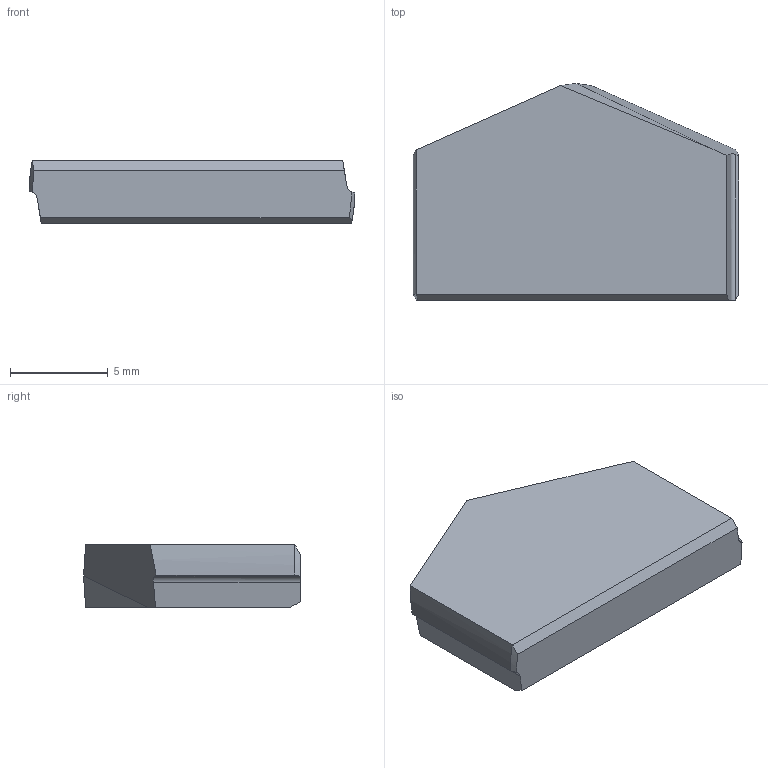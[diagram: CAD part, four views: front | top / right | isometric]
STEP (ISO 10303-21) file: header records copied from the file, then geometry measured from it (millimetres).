
FILE_DESCRIPTION (( 'STEP AP214' ), '1' );
FILE_NAME ('21-32.STEP', '2022-06-24T05:42:01', ( '' ), ( '' ), 'SwSTEP 2.0', 'SolidWorks 2018', '' );
FILE_SCHEMA (( 'AUTOMOTIVE_DESIGN' ));
Length unit declared in the file: millimetre
Products named in the file (1): 21-32
Bounding box: 16.67 x 11.1 x 3.2 mm (x, y, z)
Volume: 477.6 mm3; surface area: 448.5 mm2
Topology: 1 solids, 1 shells, 19 faces, 50 edges, 33 vertices
Faces by surface type: plane 13, cylinder 4, cone 2
Entity records: 622 total; most frequent: CARTESIAN_POINT 139, ORIENTED_EDGE 100, DIRECTION 84, EDGE_CURVE 50, VERTEX_POINT 33, LINE 32, VECTOR 32, AXIS2_PLACEMENT_3D 26
